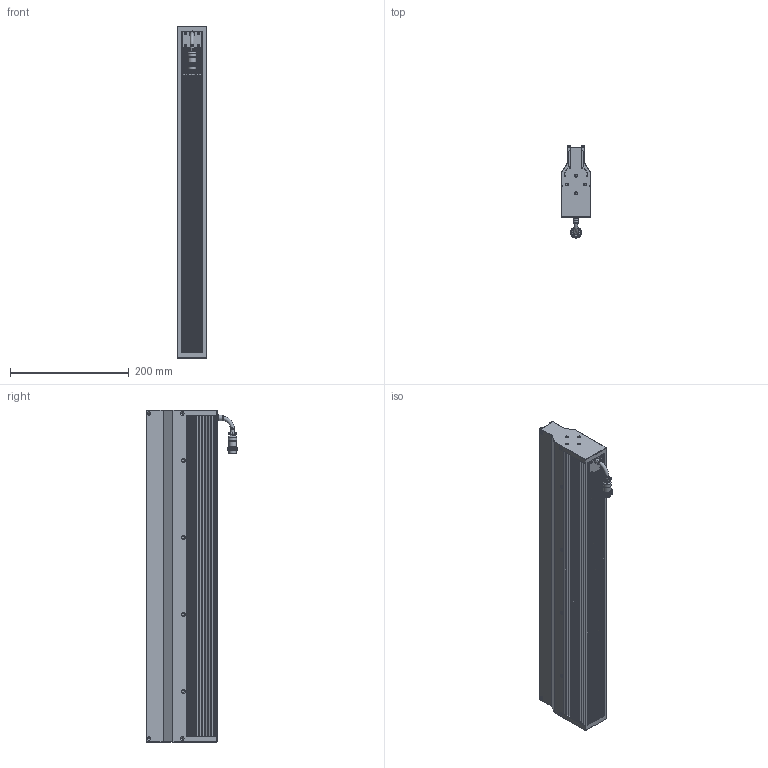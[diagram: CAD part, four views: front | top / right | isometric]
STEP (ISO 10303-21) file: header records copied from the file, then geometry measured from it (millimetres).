
FILE_DESCRIPTION (( 'STEP AP203' ), '1' );
FILE_NAME ('OPT-LSNL560-R-V1.1U尨砩芞.STEP', '2025-02-18T02:40:27', ( '' ), ( '' ), 'SwSTEP 2.0', 'SolidWorks 2016', '' );
FILE_SCHEMA (( 'CONFIG_CONTROL_DESIGN' ));
Products named in the file (1): OPT-LSNL560-R-V1.1U尨砩芞
Bounding box: 50.01 x 155.15 x 560 mm (x, y, z)
Volume: 2038059.9 mm3; surface area: 694902.1 mm2
Topology: 6 solids, 11 shells, 3620 faces, 8248 edges, 4660 vertices
Faces by surface type: bspline 2059, cylinder 761, plane 753, cone 39, torus 8
Full cylindrical faces by diameter (mm): 0.95 x6, 1.1 x2, 1.4 x2, 2 x4, 2.5 x10, 3 x12, 3.4 x16, 3.5 x4, 5 x8, 6.4 x3, 7.5 x1, 8.6 x1, 9.3 x1, 9.8 x1, 10 x1, 13.2 x1, 14 x1, 16.1 x1
Entity records: 126354 total; most frequent: CARTESIAN_POINT 64642, ORIENTED_EDGE 16114, EDGE_CURVE 8057, DIRECTION 6030, B_SPLINE_CURVE_WITH_KNOTS 5578, VERTEX_POINT 4595, EDGE_LOOP 3816, FACE_OUTER_BOUND 3703
